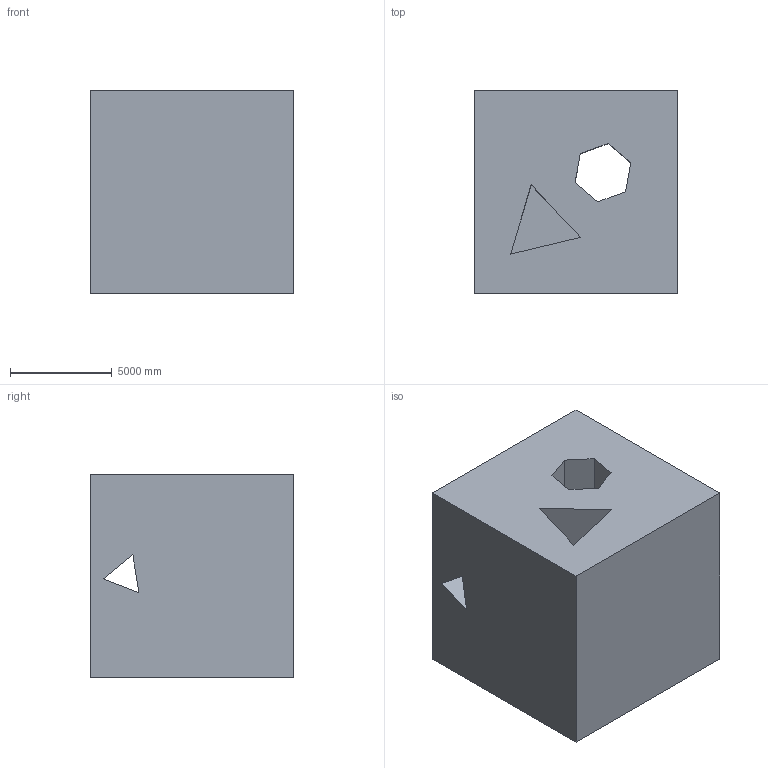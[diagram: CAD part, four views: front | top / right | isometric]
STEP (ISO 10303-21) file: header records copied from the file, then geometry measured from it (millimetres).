
FILE_DESCRIPTION (( 'STEP AP203' ), '1' );
FILE_NAME ('1236.STEP', '2022-08-18T13:19:33', ( 'user' ), ( '' ), 'SwSTEP 2.0', 'SolidWorks 2021', '' );
FILE_SCHEMA (( 'CONFIG_CONTROL_DESIGN' ));
Length unit declared in the file: centimetre
Products named in the file (1): 1236
Bounding box: 10000 x 10000 x 10000 mm (x, y, z)
Volume: 889006957907.4 mm3; surface area: 808554653 mm2
Topology: 1 solids, 1 shells, 19 faces, 48 edges, 32 vertices
Faces by surface type: plane 19
Entity records: 647 total; most frequent: CARTESIAN_POINT 100, ORIENTED_EDGE 96, DIRECTION 88, EDGE_CURVE 48, LINE 48, VECTOR 48, VERTEX_POINT 32, EDGE_LOOP 24
